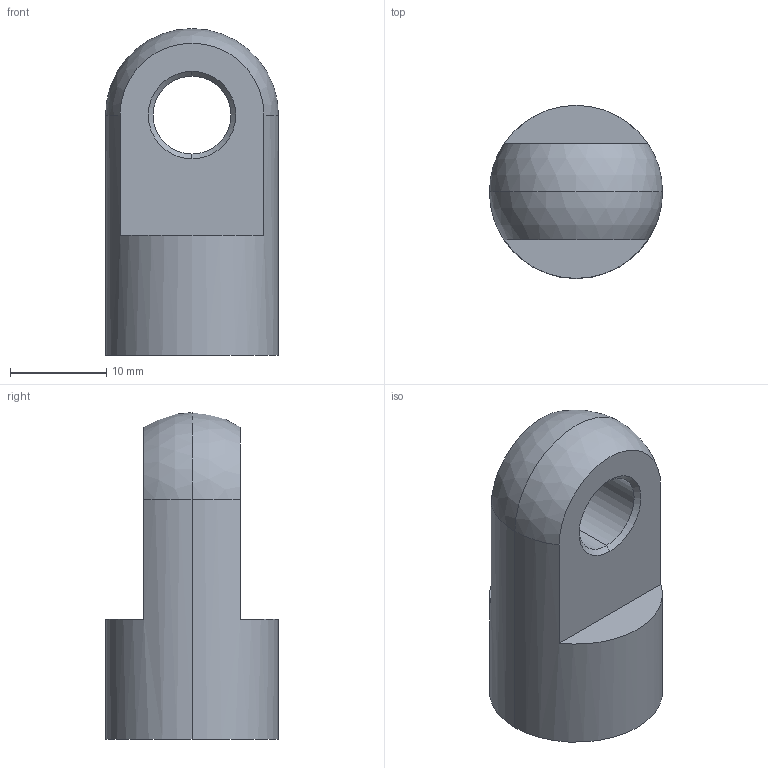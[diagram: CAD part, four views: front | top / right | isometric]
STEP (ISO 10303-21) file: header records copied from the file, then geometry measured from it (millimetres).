
FILE_DESCRIPTION (( 'STEP AP214' ), '1' );
FILE_NAME ('18.08A1L25N.STEP', '2017-10-21T12:30:33', ( '' ), ( '' ), 'SwSTEP 2.0', 'SolidWorks 2016', '' );
FILE_SCHEMA (( 'AUTOMOTIVE_DESIGN' ));
Length unit declared in the file: millimetre
Products named in the file (1): 18.08A1L25N
Bounding box: 18 x 18 x 34 mm (x, y, z)
Volume: 5465.3 mm3; surface area: 2537.1 mm2
Topology: 1 solids, 1 shells, 21 faces, 48 edges, 28 vertices
Faces by surface type: cone 8, cylinder 6, plane 5, sphere 2
Entity records: 620 total; most frequent: DIRECTION 116, CARTESIAN_POINT 96, ORIENTED_EDGE 92, AXIS2_PLACEMENT_3D 48, EDGE_CURVE 46, VERTEX_POINT 28, CIRCLE 26, EDGE_LOOP 24
